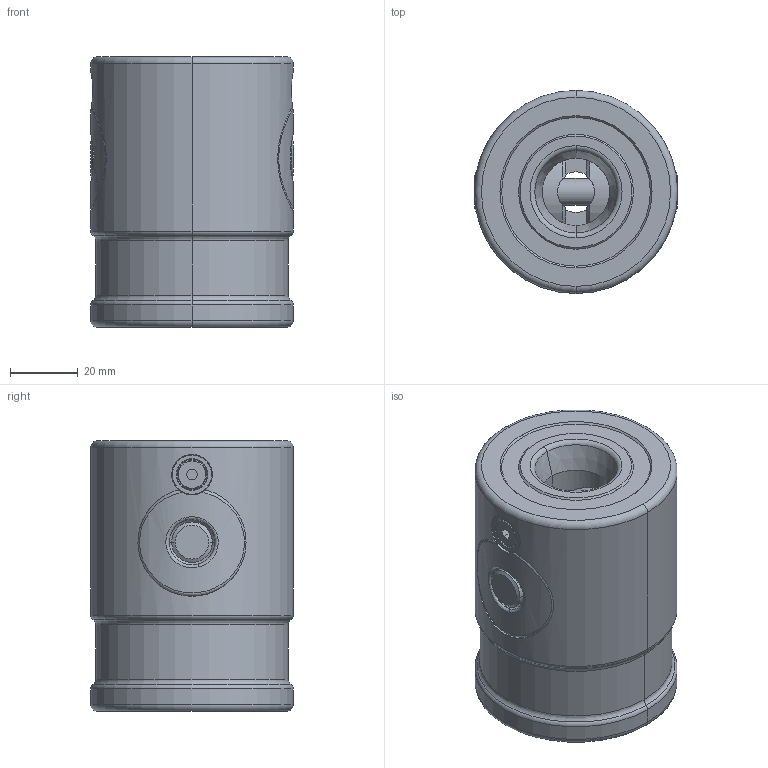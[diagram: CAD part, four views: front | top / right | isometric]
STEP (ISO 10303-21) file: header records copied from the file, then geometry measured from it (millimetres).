
FILE_DESCRIPTION (( 'STEP AP203' ), '1' );
FILE_NAME ('cp152-12080.STEP', '2021-10-25T23:52:55', ( '' ), ( '' ), 'SwSTEP 2.0', 'SolidWorks 2020', '' );
FILE_SCHEMA (( 'CONFIG_CONTROL_DESIGN' ));
Length unit declared in the file: millimetre
Products named in the file (5): cp152-12080_04; cp152-12080_01; cp152-12080_02; cp152-12080; cp152-12080_03
Assembly tree (4 placements, depth 2):
  cp152-12080
    cp152-12080_01
    cp152-12080_02
    cp152-12080_03
    cp152-12080_04
Bounding box: 60 x 60 x 80 mm (x, y, z)
Volume: 197113.6 mm3; surface area: 39254.8 mm2
Topology: 4 solids, 6 shells, 241 faces, 542 edges, 330 vertices
Faces by surface type: cylinder 84, cone 64, plane 59, torus 28, bspline 6
Entity records: 9957 total; most frequent: CARTESIAN_POINT 3982, DIRECTION 1220, ORIENTED_EDGE 1084, EDGE_CURVE 542, AXIS2_PLACEMENT_3D 510, VERTEX_POINT 330, EDGE_LOOP 276, CIRCLE 268
